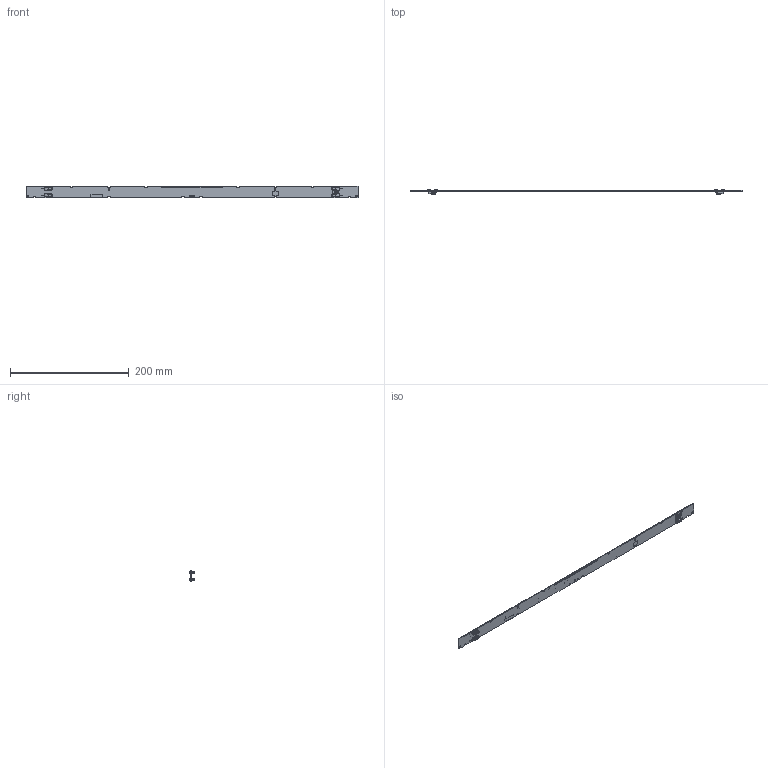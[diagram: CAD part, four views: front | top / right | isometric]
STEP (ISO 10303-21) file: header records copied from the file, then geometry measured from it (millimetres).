
FILE_DESCRIPTION((''),'2;1');
FILE_NAME('ASM0002_ASM','2020-05-06T13:35:29',('msavic'),(''),'CREO PARAMETRIC BY PTC INC, 2016510','CREO PARAMETRIC BY PTC INC, 2016510','');
FILE_SCHEMA(('AUTOMOTIVE_DESIGN { 1 0 10303 214 1 1 1 1 }'));
Products named in the file (22): BAZA_WU-M-644; PRT0003; PRT0003_22222222222222; PRT0003_111111111111; PRT0003_3333333333333; PRT0004; CE-ZEICHEN-6MM_2; CE-ZEICHEN-6MM001_2; VSO-LOGO-5MM_3; VSO-LOGO-5MM001_2_1; BUILT-IN_LED_MODULE-5MM004_2; BUILT-IN_LED_MODULE-5MM003_2; BUILT-IN_LED_MODULE-5MM002_2; BUILT-IN_LED_MODULE-5MM001_2; DIODA; STW8C2PB-E1; PRT0003_7777777777777; PRT0003_444444444444444; MCU_0805; BC_CON_; PRT0006; ASM0002_ASM
Assembly tree (98 placements, depth 2):
  ASM0002_ASM
    BAZA_WU-M-644
    PRT0003
    PRT0003_22222222222222
    PRT0003_111111111111
    PRT0003_3333333333333
    PRT0004
    CE-ZEICHEN-6MM_2
    CE-ZEICHEN-6MM001_2
    VSO-LOGO-5MM_3
    VSO-LOGO-5MM001_2_1
    BUILT-IN_LED_MODULE-5MM004_2
    BUILT-IN_LED_MODULE-5MM003_2
    BUILT-IN_LED_MODULE-5MM002_2
    BUILT-IN_LED_MODULE-5MM001_2  x2
    DIODA  x36
    STW8C2PB-E1  x36
    PRT0003_7777777777777
    PRT0003_444444444444444
    MCU_0805  x4
    BC_CON_  x4
    PRT0006
Bounding box: 559 x 7.43 x 20 mm (x, y, z)
Volume: 18958.8 mm3; surface area: 29613.7 mm2
Topology: 98 solids, 98 shells, 9541 faces, 27167 edges, 18790 vertices
Faces by surface type: plane 9182, cylinder 269, extrusion 66, bspline 24
Entity records: 200736 total; most frequent: CARTESIAN_POINT 36098, ORIENTED_EDGE 33976, DIRECTION 29248, EDGE_CURVE 16988, VECTOR 16608, LINE 16584, VERTEX_POINT 11326, AXIS2_PLACEMENT_3D 6320
